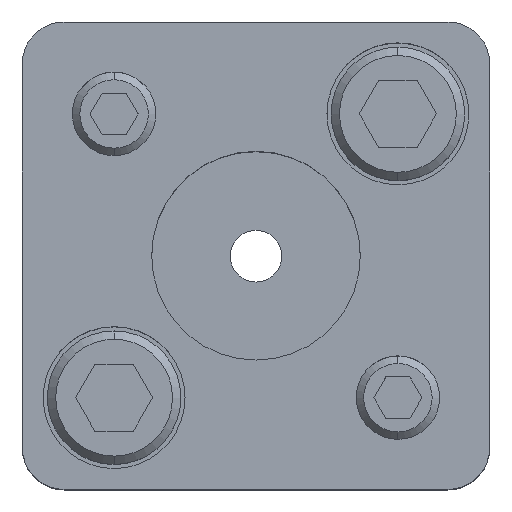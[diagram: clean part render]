
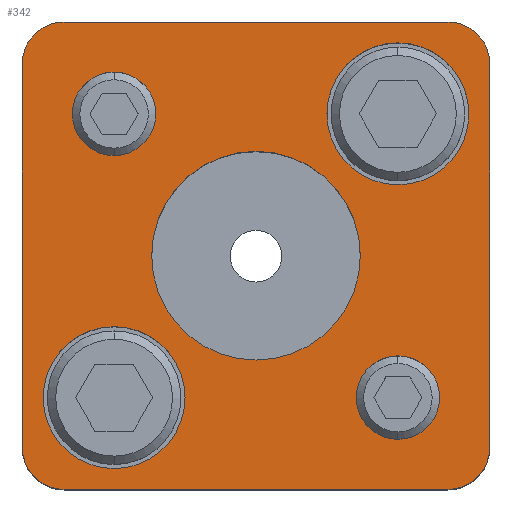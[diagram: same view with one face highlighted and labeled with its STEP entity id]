
A CAD part, top view. The second image highlights one B-rep face of the part: STEP entity #342.
In plain terms, the highlighted planar face has unit normal (0, 0, 1).
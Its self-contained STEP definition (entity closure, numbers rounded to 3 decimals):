
#169=PLANE('',#2888);
#244=FACE_BOUND('',#729,.T.);
#245=FACE_BOUND('',#730,.T.);
#246=FACE_BOUND('',#731,.T.);
#247=FACE_BOUND('',#732,.T.);
#248=FACE_BOUND('',#733,.T.);
#249=FACE_BOUND('',#734,.T.);
#342=ADVANCED_FACE('',(#244,#245,#246,#247,#248,#249),#169,.T.);
#729=EDGE_LOOP('',(#1539,#1540,#1541,#1542,#1543,#1544,#1545,#1546));
#730=EDGE_LOOP('',(#1547,#1548));
#731=EDGE_LOOP('',(#1549,#1550));
#732=EDGE_LOOP('',(#1551,#1552));
#733=EDGE_LOOP('',(#1553,#1554));
#734=EDGE_LOOP('',(#1555,#1556));
#907=LINE('',#4261,#1103);
#908=LINE('',#4265,#1104);
#909=LINE('',#4269,#1105);
#910=LINE('',#4273,#1106);
#1103=VECTOR('',#3427,1.);
#1104=VECTOR('',#3430,1.);
#1105=VECTOR('',#3433,1.);
#1106=VECTOR('',#3436,1.);
#1539=ORIENTED_EDGE('',*,*,#2357,.T.);
#1540=ORIENTED_EDGE('',*,*,#2358,.T.);
#1541=ORIENTED_EDGE('',*,*,#2359,.T.);
#1542=ORIENTED_EDGE('',*,*,#2360,.T.);
#1543=ORIENTED_EDGE('',*,*,#2361,.T.);
#1544=ORIENTED_EDGE('',*,*,#2362,.T.);
#1545=ORIENTED_EDGE('',*,*,#2363,.T.);
#1546=ORIENTED_EDGE('',*,*,#2364,.T.);
#1547=ORIENTED_EDGE('',*,*,#2365,.F.);
#1548=ORIENTED_EDGE('',*,*,#2366,.F.);
#1549=ORIENTED_EDGE('',*,*,#2367,.F.);
#1550=ORIENTED_EDGE('',*,*,#2368,.F.);
#1551=ORIENTED_EDGE('',*,*,#2343,.F.);
#1552=ORIENTED_EDGE('',*,*,#2339,.F.);
#1553=ORIENTED_EDGE('',*,*,#2337,.F.);
#1554=ORIENTED_EDGE('',*,*,#2333,.F.);
#1555=ORIENTED_EDGE('',*,*,#2369,.T.);
#1556=ORIENTED_EDGE('',*,*,#2370,.T.);
#2053=VERTEX_POINT('',#4209);
#2054=VERTEX_POINT('',#4210);
#2057=VERTEX_POINT('',#4222);
#2058=VERTEX_POINT('',#4223);
#2069=VERTEX_POINT('',#4259);
#2070=VERTEX_POINT('',#4260);
#2071=VERTEX_POINT('',#4262);
#2072=VERTEX_POINT('',#4264);
#2073=VERTEX_POINT('',#4266);
#2074=VERTEX_POINT('',#4268);
#2075=VERTEX_POINT('',#4270);
#2076=VERTEX_POINT('',#4272);
#2077=VERTEX_POINT('',#4275);
#2078=VERTEX_POINT('',#4276);
#2079=VERTEX_POINT('',#4279);
#2080=VERTEX_POINT('',#4280);
#2081=VERTEX_POINT('',#4283);
#2082=VERTEX_POINT('',#4284);
#2333=EDGE_CURVE('',#2053,#2054,#2635,.T.);
#2337=EDGE_CURVE('',#2054,#2053,#2637,.T.);
#2339=EDGE_CURVE('',#2057,#2058,#2639,.T.);
#2343=EDGE_CURVE('',#2058,#2057,#2641,.T.);
#2357=EDGE_CURVE('',#2069,#2070,#2651,.T.);
#2358=EDGE_CURVE('',#2070,#2071,#907,.T.);
#2359=EDGE_CURVE('',#2071,#2072,#2652,.T.);
#2360=EDGE_CURVE('',#2072,#2073,#908,.T.);
#2361=EDGE_CURVE('',#2073,#2074,#2653,.T.);
#2362=EDGE_CURVE('',#2074,#2075,#909,.T.);
#2363=EDGE_CURVE('',#2075,#2076,#2654,.T.);
#2364=EDGE_CURVE('',#2076,#2069,#910,.T.);
#2365=EDGE_CURVE('',#2077,#2078,#2655,.T.);
#2366=EDGE_CURVE('',#2078,#2077,#2656,.T.);
#2367=EDGE_CURVE('',#2079,#2080,#2657,.T.);
#2368=EDGE_CURVE('',#2080,#2079,#2658,.T.);
#2369=EDGE_CURVE('',#2081,#2082,#2659,.T.);
#2370=EDGE_CURVE('',#2082,#2081,#2660,.T.);
#2635=CIRCLE('',#2852,5.);
#2637=CIRCLE('',#2855,5.);
#2639=CIRCLE('',#2859,5.);
#2641=CIRCLE('',#2862,5.);
#2651=CIRCLE('',#2878,5.);
#2652=CIRCLE('',#2879,5.);
#2653=CIRCLE('',#2880,5.);
#2654=CIRCLE('',#2881,5.);
#2655=CIRCLE('',#2882,8.5);
#2656=CIRCLE('',#2883,8.5);
#2657=CIRCLE('',#2884,8.5);
#2658=CIRCLE('',#2885,8.5);
#2659=CIRCLE('',#2886,12.5);
#2660=CIRCLE('',#2887,12.5);
#2852=AXIS2_PLACEMENT_3D('',#4208,#3365,#3366);
#2855=AXIS2_PLACEMENT_3D('',#4217,#3373,#3374);
#2859=AXIS2_PLACEMENT_3D('',#4221,#3381,#3382);
#2862=AXIS2_PLACEMENT_3D('',#4230,#3389,#3390);
#2878=AXIS2_PLACEMENT_3D('',#4258,#3425,#3426);
#2879=AXIS2_PLACEMENT_3D('',#4263,#3428,#3429);
#2880=AXIS2_PLACEMENT_3D('',#4267,#3431,#3432);
#2881=AXIS2_PLACEMENT_3D('',#4271,#3434,#3435);
#2882=AXIS2_PLACEMENT_3D('',#4274,#3437,#3438);
#2883=AXIS2_PLACEMENT_3D('',#4277,#3439,#3440);
#2884=AXIS2_PLACEMENT_3D('',#4278,#3441,#3442);
#2885=AXIS2_PLACEMENT_3D('',#4281,#3443,#3444);
#2886=AXIS2_PLACEMENT_3D('',#4282,#3445,#3446);
#2887=AXIS2_PLACEMENT_3D('',#4285,#3447,#3448);
#2888=AXIS2_PLACEMENT_3D('',#4286,#3449,#3450);
#3365=DIRECTION('',(0.,0.,1.));
#3366=DIRECTION('',(-1.,0.,0.));
#3373=DIRECTION('',(0.,0.,1.));
#3374=DIRECTION('',(1.,0.,0.));
#3381=DIRECTION('',(0.,0.,1.));
#3382=DIRECTION('',(-1.,0.,0.));
#3389=DIRECTION('',(0.,0.,1.));
#3390=DIRECTION('',(1.,0.,0.));
#3425=DIRECTION('',(0.,0.,1.));
#3426=DIRECTION('',(-0.707,0.707,0.));
#3427=DIRECTION('',(0.,1.,0.));
#3428=DIRECTION('',(0.,0.,1.));
#3429=DIRECTION('',(-0.707,-0.707,0.));
#3430=DIRECTION('',(-1.,0.,0.));
#3431=DIRECTION('',(0.,0.,1.));
#3432=DIRECTION('',(0.707,-0.707,0.));
#3433=DIRECTION('',(0.,-1.,0.));
#3434=DIRECTION('',(0.,0.,1.));
#3435=DIRECTION('',(0.707,0.707,0.));
#3436=DIRECTION('',(1.,0.,0.));
#3437=DIRECTION('',(0.,0.,1.));
#3438=DIRECTION('',(1.,0.,0.));
#3439=DIRECTION('',(0.,0.,1.));
#3440=DIRECTION('',(-1.,0.,0.));
#3441=DIRECTION('',(0.,0.,1.));
#3442=DIRECTION('',(1.,0.,0.));
#3443=DIRECTION('',(0.,0.,1.));
#3444=DIRECTION('',(-1.,0.,0.));
#3445=DIRECTION('',(0.,0.,-1.));
#3446=DIRECTION('',(-1.,0.,0.));
#3447=DIRECTION('',(0.,0.,-1.));
#3448=DIRECTION('',(1.,0.,0.));
#3449=DIRECTION('',(0.,0.,1.));
#3450=DIRECTION('',(-1.,0.,0.));
#4208=CARTESIAN_POINT('',(17.,-17.,40.));
#4209=CARTESIAN_POINT('',(17.,-22.,40.));
#4210=CARTESIAN_POINT('',(17.,-12.,40.));
#4217=CARTESIAN_POINT('',(17.,-17.,40.));
#4221=CARTESIAN_POINT('',(-17.,17.,40.));
#4222=CARTESIAN_POINT('',(-17.,12.,40.));
#4223=CARTESIAN_POINT('',(-17.,22.,40.));
#4230=CARTESIAN_POINT('',(-17.,17.,40.));
#4258=CARTESIAN_POINT('',(23.,-23.,40.));
#4259=CARTESIAN_POINT('',(23.,-28.,40.));
#4260=CARTESIAN_POINT('',(28.,-23.,40.));
#4261=CARTESIAN_POINT('',(28.,23.,40.));
#4262=CARTESIAN_POINT('',(28.,23.,40.));
#4263=CARTESIAN_POINT('',(23.,23.,40.));
#4264=CARTESIAN_POINT('',(23.,28.,40.));
#4265=CARTESIAN_POINT('',(-23.,28.,40.));
#4266=CARTESIAN_POINT('',(-23.,28.,40.));
#4267=CARTESIAN_POINT('',(-23.,23.,40.));
#4268=CARTESIAN_POINT('',(-28.,23.,40.));
#4269=CARTESIAN_POINT('',(-28.,23.,40.));
#4270=CARTESIAN_POINT('',(-28.,-23.,40.));
#4271=CARTESIAN_POINT('',(-23.,-23.,40.));
#4272=CARTESIAN_POINT('',(-23.,-28.,40.));
#4273=CARTESIAN_POINT('',(-23.,-28.,40.));
#4274=CARTESIAN_POINT('',(17.,17.,40.));
#4275=CARTESIAN_POINT('',(17.,25.5,40.));
#4276=CARTESIAN_POINT('',(17.,8.5,40.));
#4277=CARTESIAN_POINT('',(17.,17.,40.));
#4278=CARTESIAN_POINT('',(-17.,-17.,40.));
#4279=CARTESIAN_POINT('',(-17.,-8.5,40.));
#4280=CARTESIAN_POINT('',(-17.,-25.5,40.));
#4281=CARTESIAN_POINT('',(-17.,-17.,40.));
#4282=CARTESIAN_POINT('',(0.,0.,40.));
#4283=CARTESIAN_POINT('',(0.,12.5,40.));
#4284=CARTESIAN_POINT('',(0.,-12.5,40.));
#4285=CARTESIAN_POINT('',(0.,0.,40.));
#4286=CARTESIAN_POINT('',(23.,-28.,40.));
